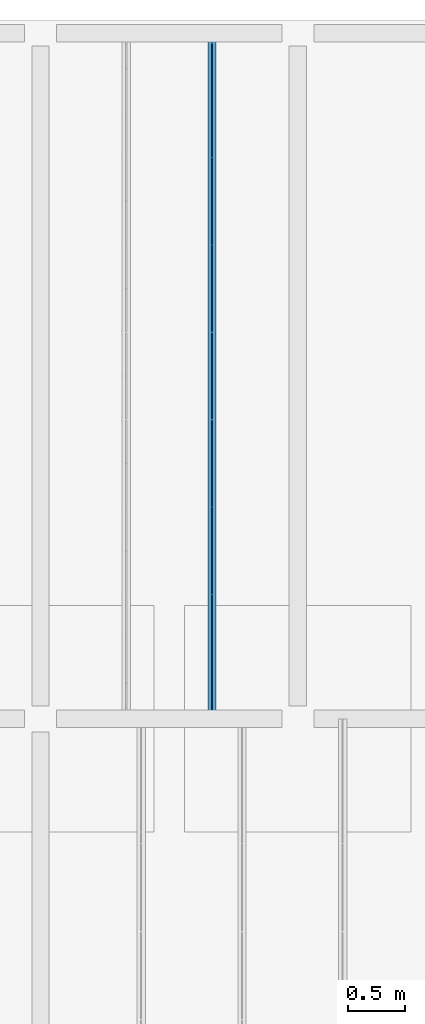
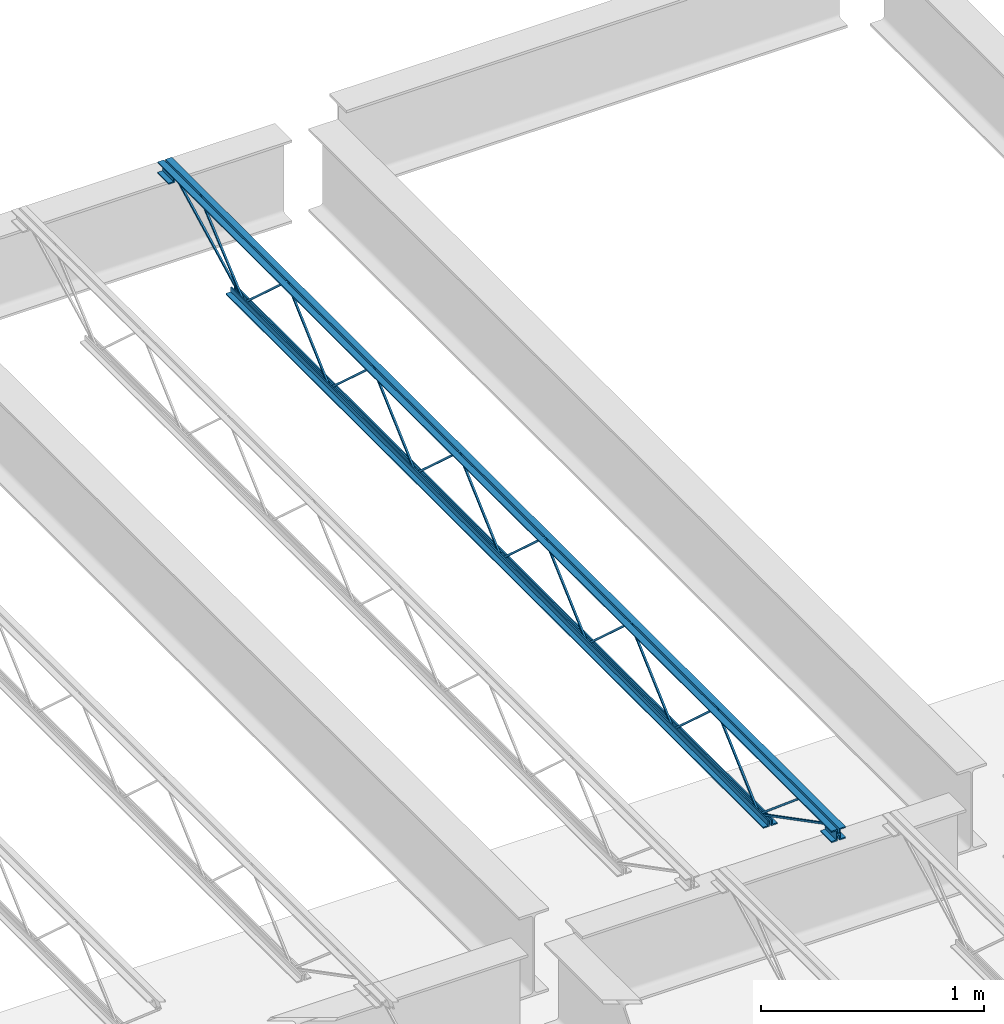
# One storey, part 47 of 75: 1 beam.
"""IFC2X3 building model written with IfcOpenShell, lengths in metres."""

from ifc_helpers import new_model, entity, si_unit, converted_unit, frame, origin, place, context, project, spatial, face_set, surface_model, element, save


model = new_model("IFC2X3")

# Units and contexts
model_context = context("Model", 3, precision=1e-09, world=origin())
plan_context = context("Plan", 3, precision=1e-09, world=origin())
ifc_project = project(units=[si_unit("LENGTHUNIT", "METRE"), si_unit("AREAUNIT", "SQUARE_METRE"), si_unit("VOLUMEUNIT", "CUBIC_METRE"), converted_unit("PLANEANGLEUNIT", "DEGREE", entity("IfcRatioMeasure", 0.01745329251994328), si_unit("PLANEANGLEUNIT", "RADIAN"), dimensions=[0, 0, 0, 0, 0, 0, 0]), si_unit("TIMEUNIT", "SECOND")], contexts=[model_context, plan_context])

# Site, building, storey
site_placement = place(None, origin())
site = spatial("IfcSite", under=ifc_project, at=site_placement, Name="Default", CompositionType="ELEMENT")
building_placement = place(site_placement, origin())
building = spatial("IfcBuilding", under=site, at=building_placement, CompositionType="ELEMENT")
storey_placement = place(building_placement, origin())
storey = spatial("IfcBuildingStorey", under=building, at=storey_placement, Name="First Floor", CompositionType="ELEMENT", Elevation=-3.531500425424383e-13)

# Beam
beam_placement = place(storey_placement, frame((-39.18341666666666, 50.09000000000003, 4.112000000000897)))
element("IfcBeam", 1, at=beam_placement, inside=storey, Name="M_K-Series Bar Joist-Rod Web:14K1:14K1", ObjectType="M_K-Series Bar Joist-Rod Web:14K1", context=model_context, shape_type="SurfaceModel", body=[
    surface_model("IfcFaceBasedSurfaceModel", [(0.0415000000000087, 3.795999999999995, 0.01110000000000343), (0.03200000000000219, 3.795999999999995, 0.01110000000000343), (0.03200000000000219, 3.795999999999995, 0.001600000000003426), (0.0415000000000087, 3.795999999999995, 0.001600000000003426), (0.03200000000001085, 3.797344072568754, 0.01110000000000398), (0.0415000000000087, 3.797344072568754, 0.01110000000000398), (0.03200000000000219, 3.80100592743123, 0.001600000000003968), (0.03200000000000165, 4.180155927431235, 0.3449000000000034), (0.03200000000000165, 4.182844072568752, 0.3449000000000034), (0.0320000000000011, 4.561994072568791, 0.001600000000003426), (0.03200000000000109, 4.566999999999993, 0.001600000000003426), (0.03200000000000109, 4.566999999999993, 0.01110000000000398), (0.03200000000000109, 4.565655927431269, 0.01110000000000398), (0.03200000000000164, 4.186505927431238, 0.3544000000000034), (0.03200000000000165, 4.176494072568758, 0.3544000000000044), (0.04150000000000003, 3.80100592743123, 0.001600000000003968), (0.04150000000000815, 4.180155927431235, 0.3449000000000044), (0.04150000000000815, 4.182844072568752, 0.3449000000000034), (0.04150000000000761, 4.561994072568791, 0.001600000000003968), (0.04150000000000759, 4.566999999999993, 0.001600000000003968), (0.04150000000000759, 4.566999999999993, 0.01110000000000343), (0.04150000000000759, 4.565655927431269, 0.01110000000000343), (0.04150000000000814, 4.186505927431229, 0.3544000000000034), (0.04150000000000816, 4.176494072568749, 0.3544000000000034), (0.04150000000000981, 3.024999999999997, 0.01110000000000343), (0.0320000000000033, 3.024999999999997, 0.01110000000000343), (0.0320000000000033, 3.024999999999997, 0.001600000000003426), (0.04150000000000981, 3.024999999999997, 0.001600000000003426), (0.03200000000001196, 3.026344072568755, 0.01110000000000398), (0.04150000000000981, 3.026344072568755, 0.01110000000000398), (0.03200000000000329, 3.030005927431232, 0.001600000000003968), (0.03200000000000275, 3.409155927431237, 0.3449000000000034), (0.03200000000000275, 3.411844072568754, 0.3449000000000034), (0.03200000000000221, 3.790994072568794, 0.001600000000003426), (0.03200000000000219, 3.795999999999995, 0.01110000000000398), (0.03200000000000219, 3.794655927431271, 0.01110000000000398), (0.03200000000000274, 3.41550592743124, 0.3544000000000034), (0.03200000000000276, 3.40549407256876, 0.3544000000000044), (0.04150000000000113, 3.030005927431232, 0.001600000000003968), (0.04150000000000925, 3.409155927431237, 0.3449000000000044), (0.04150000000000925, 3.411844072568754, 0.3449000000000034), (0.0415000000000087, 3.790994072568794, 0.001600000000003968), (0.0415000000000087, 3.795999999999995, 0.001600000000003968), (0.0415000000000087, 3.794655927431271, 0.01110000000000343), (0.04150000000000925, 3.415505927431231, 0.3544000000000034), (0.04150000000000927, 3.40549407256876, 0.3544000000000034), (0.0415000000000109, 2.253999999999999, 0.01110000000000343), (0.03200000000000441, 2.253999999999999, 0.01110000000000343), (0.03200000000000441, 2.253999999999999, 0.001600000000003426), (0.0415000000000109, 2.253999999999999, 0.001600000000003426), (0.03200000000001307, 2.255344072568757, 0.01110000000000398), (0.0415000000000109, 2.255344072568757, 0.01110000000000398), (0.03200000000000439, 2.259005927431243, 0.001600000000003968), (0.03200000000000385, 2.638155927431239, 0.3449000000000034), (0.03200000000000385, 2.640844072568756, 0.3449000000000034), (0.03200000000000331, 3.019994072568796, 0.001600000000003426), (0.0320000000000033, 3.024999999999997, 0.01110000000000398), (0.0320000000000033, 3.023655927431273, 0.01110000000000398), (0.03200000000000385, 2.644505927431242, 0.3544000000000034), (0.03200000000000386, 2.634494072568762, 0.3544000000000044), (0.04150000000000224, 2.259005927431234, 0.001600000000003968), (0.04150000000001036, 2.638155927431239, 0.3449000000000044), (0.04150000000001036, 2.640844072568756, 0.3449000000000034), (0.04150000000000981, 3.019994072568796, 0.001600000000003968), (0.04150000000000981, 3.024999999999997, 0.001600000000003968), (0.04150000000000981, 3.023655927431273, 0.01110000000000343), (0.04150000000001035, 2.644505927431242, 0.3544000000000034), (0.04150000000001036, 2.634494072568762, 0.3544000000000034), (0.04150000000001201, 1.483000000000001, 0.01110000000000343), (0.03200000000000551, 1.483000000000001, 0.01110000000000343), (0.03200000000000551, 1.483000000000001, 0.001600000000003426), (0.04150000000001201, 1.483000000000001, 0.001600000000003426), (0.03200000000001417, 1.484344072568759, 0.01110000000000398), (0.04150000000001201, 1.484344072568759, 0.01110000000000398), (0.0320000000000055, 1.488005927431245, 0.001600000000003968), (0.03200000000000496, 1.867155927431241, 0.3449000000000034), (0.03200000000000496, 1.869844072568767, 0.3449000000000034), (0.03200000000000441, 2.248994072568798, 0.001600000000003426), (0.03200000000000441, 2.254000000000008, 0.001600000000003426), (0.03200000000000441, 2.253999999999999, 0.01110000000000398), (0.03200000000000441, 2.252655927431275, 0.01110000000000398), (0.03200000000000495, 1.873505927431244, 0.3544000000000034), (0.03200000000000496, 1.863494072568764, 0.3544000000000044), (0.04150000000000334, 1.488005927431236, 0.001600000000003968), (0.04150000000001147, 1.867155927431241, 0.3449000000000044), (0.04150000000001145, 1.869844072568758, 0.3449000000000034), (0.04150000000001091, 2.248994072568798, 0.001600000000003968), (0.0415000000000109, 2.253999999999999, 0.001600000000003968), (0.0415000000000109, 2.254000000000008, 0.01110000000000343), (0.04150000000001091, 2.252655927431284, 0.01110000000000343), (0.04150000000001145, 1.873505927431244, 0.3544000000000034), (0.04150000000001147, 1.863494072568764, 0.3544000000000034), (0.04150000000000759, 4.566999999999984, 0.01109999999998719), (0.03200000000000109, 4.566999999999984, 0.01109999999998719), (0.03200000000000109, 4.566999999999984, 0.001599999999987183), (0.04150000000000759, 4.566999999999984, 0.001599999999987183), (0.03200000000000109, 4.568344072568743, 0.01109999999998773), (0.04149999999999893, 4.568344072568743, 0.01109999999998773), (0.03200000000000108, 4.572005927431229, 0.001599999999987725), (0.03200000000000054, 4.951155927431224, 0.3448999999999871), (0.03200000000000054, 4.95384407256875, 0.3448999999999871), (0.03199999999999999, 5.332994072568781, 0.001599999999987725), (0.03199999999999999, 5.33799999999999, 0.001599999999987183), (0.03199999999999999, 5.337999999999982, 0.01109999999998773), (0.03199999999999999, 5.336655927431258, 0.01109999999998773), (0.03200000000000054, 4.957505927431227, 0.3543999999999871), (0.03200000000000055, 4.947494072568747, 0.3543999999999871), (0.04149999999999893, 4.57200592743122, 0.001599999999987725), (0.04149999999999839, 4.951155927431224, 0.3448999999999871), (0.04149999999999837, 4.953844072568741, 0.3448999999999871), (0.04149999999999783, 5.332994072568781, 0.001599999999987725), (0.04149999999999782, 5.337999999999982, 0.001599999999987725), (0.04150000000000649, 5.33799999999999, 0.01109999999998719), (0.04149999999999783, 5.336655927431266, 0.01109999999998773), (0.04149999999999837, 4.957505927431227, 0.3543999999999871), (0.04149999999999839, 4.947494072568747, 0.3543999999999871), (0.04150000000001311, 0.7120000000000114, 0.01110000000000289), (0.03200000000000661, 0.7120000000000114, 0.01110000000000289), (0.03200000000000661, 0.7120000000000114, 0.001600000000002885), (0.04150000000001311, 0.7120000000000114, 0.001600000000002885), (0.03200000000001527, 0.71334407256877, 0.01110000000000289), (0.04150000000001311, 0.71334407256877, 0.01110000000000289), (0.03200000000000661, 0.717005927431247, 0.001600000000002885), (0.03200000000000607, 1.096155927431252, 0.3449000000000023), (0.03200000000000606, 1.098844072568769, 0.3449000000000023), (0.03200000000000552, 1.477994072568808, 0.001600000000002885), (0.03200000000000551, 1.483000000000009, 0.001600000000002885), (0.03200000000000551, 1.483000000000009, 0.01110000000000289), (0.03200000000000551, 1.481655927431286, 0.01110000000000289), (0.03200000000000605, 1.102505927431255, 0.3544000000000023), (0.03200000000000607, 1.092494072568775, 0.3544000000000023), (0.04150000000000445, 0.717005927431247, 0.001600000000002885), (0.04150000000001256, 1.096155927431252, 0.3449000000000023), (0.04150000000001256, 1.098844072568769, 0.3449000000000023), (0.04150000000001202, 1.477994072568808, 0.001600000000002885), (0.04150000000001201, 1.483000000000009, 0.001600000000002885), (0.04150000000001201, 1.483000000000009, 0.01110000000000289), (0.04150000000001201, 1.481655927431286, 0.01110000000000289), (0.04150000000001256, 1.102505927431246, 0.3544000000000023), (0.04150000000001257, 1.092494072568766, 0.3544000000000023), (0.03199999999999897, 6.050000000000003, 0.3559999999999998), (0.0, 6.050000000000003, 0.3559999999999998), (0.0, 6.050000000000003, 0.349499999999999), (0.02550000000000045, 6.050000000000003, 0.349499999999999), (0.02550000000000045, 6.050000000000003, 0.3239999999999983), (0.03199999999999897, 6.050000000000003, 0.3239999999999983), (0.04149999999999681, 6.050000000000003, 0.3559999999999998), (0.04149999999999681, 6.050000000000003, 0.3239999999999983), (0.04799999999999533, 6.050000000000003, 0.3239999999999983), (0.04799999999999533, 6.050000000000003, 0.349499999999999), (0.07349999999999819, 6.050000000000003, 0.349499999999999), (0.07349999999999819, 6.050000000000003, 0.3559999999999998), (0.03200000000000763, 0.0, 0.3559999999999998), (0.0, 0.0, 0.3559999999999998), (0.0, 0.0, 0.349499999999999), (0.02550000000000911, 0.0, 0.349499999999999), (0.02550000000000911, 0.0, 0.3239999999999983), (0.03200000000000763, 0.0, 0.3239999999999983), (0.04150000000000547, 0.0, 0.3559999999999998), (0.04150000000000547, 0.0, 0.3239999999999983), (0.048000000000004, 0.0, 0.3239999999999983), (0.048000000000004, 0.0, 0.349499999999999), (0.07350000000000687, 0.0, 0.349499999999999), (0.07350000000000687, 0.0, 0.3559999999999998), (0.04150000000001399, 0.0999999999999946, 0.2924999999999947), (0.07350000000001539, 0.0999999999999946, 0.2924999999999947), (0.07350000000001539, 0.0999999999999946, 0.2989999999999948), (0.04800000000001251, 0.0999999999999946, 0.2989999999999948), (0.04800000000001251, 0.0999999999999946, 0.3239999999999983), (0.04150000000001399, 0.0999999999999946, 0.3239999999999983), (0.0, 0.0999999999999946, 0.2924999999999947), (0.03200000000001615, 0.0999999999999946, 0.2924999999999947), (0.03200000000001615, 0.0999999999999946, 0.3239999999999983), (0.02550000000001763, 0.0999999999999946, 0.3239999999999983), (0.02550000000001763, 0.0999999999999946, 0.2989999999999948), (0.0, 0.0999999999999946, 0.2989999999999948), (0.04150000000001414, 0.0, 0.2924999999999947), (0.07350000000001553, 0.0, 0.2924999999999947), (0.07350000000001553, 0.0, 0.2989999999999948), (0.04800000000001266, 0.0, 0.2989999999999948), (0.04800000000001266, 0.0, 0.3239999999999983), (0.04150000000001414, 0.0, 0.3239999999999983), (0.0, 0.0, 0.2924999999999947), (0.03200000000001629, 0.0, 0.2924999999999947), (0.03200000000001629, 0.0, 0.3239999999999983), (0.02550000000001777, 0.0, 0.3239999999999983), (0.02550000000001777, 0.0, 0.2989999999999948), (0.0, 0.0, 0.2989999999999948), (0.03200000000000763, 6.050000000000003, 0.2924999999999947), (0.03200000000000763, 6.050000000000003, 0.3239999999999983), (0.02550000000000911, 6.050000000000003, 0.3239999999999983), (0.02550000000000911, 6.050000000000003, 0.2989999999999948), (0.0, 6.050000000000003, 0.2989999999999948), (0.0, 6.050000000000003, 0.2924999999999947), (0.04150000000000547, 6.050000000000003, 0.2924999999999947), (0.07350000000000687, 6.050000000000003, 0.2924999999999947), (0.07350000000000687, 6.050000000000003, 0.2989999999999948), (0.048000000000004, 6.050000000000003, 0.2989999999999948), (0.048000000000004, 6.050000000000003, 0.3239999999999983), (0.04150000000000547, 6.050000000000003, 0.3239999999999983), (0.03200000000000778, 5.950000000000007, 0.2924999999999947), (0.03200000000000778, 5.950000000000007, 0.3239999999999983), (0.02550000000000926, 5.950000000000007, 0.3239999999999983), (0.02550000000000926, 5.950000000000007, 0.2989999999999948), (0.0, 5.950000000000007, 0.2989999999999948), (0.0, 5.950000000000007, 0.2924999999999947), (0.04150000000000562, 5.950000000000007, 0.2924999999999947), (0.073500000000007, 5.950000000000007, 0.2924999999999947), (0.073500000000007, 5.950000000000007, 0.2989999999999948), (0.04800000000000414, 5.950000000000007, 0.2989999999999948), (0.04800000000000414, 5.950000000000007, 0.3239999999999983), (0.04150000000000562, 5.950000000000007, 0.3239999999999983), (0.03199999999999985, 5.438000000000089, 0.0), (0.03199999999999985, 5.438000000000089, 0.03199999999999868), (0.02550000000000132, 5.438000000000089, 0.03199999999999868), (0.02550000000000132, 5.438000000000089, 0.006499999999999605), (0.0, 5.438000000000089, 0.006499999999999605), (0.0, 5.438000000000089, 0.0), (0.04149999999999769, 5.438000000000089, 0.0), (0.07349999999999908, 5.438000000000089, 0.0), (0.07349999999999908, 5.438000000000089, 0.006499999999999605), (0.04799999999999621, 5.438000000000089, 0.006499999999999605), (0.04799999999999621, 5.438000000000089, 0.03199999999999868), (0.04149999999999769, 5.438000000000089, 0.03199999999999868), (0.03200000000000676, 0.6120000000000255, 0.0), (0.03200000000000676, 0.6120000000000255, 0.03199999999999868), (0.02550000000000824, 0.6120000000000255, 0.03199999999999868), (0.02550000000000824, 0.6120000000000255, 0.006499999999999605), (0.0, 0.6120000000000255, 0.006499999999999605), (0.0, 0.6120000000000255, 0.0), (0.0415000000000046, 0.6120000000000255, 0.0), (0.07350000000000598, 0.6120000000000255, 0.0), (0.07350000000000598, 0.6120000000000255, 0.006499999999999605), (0.04800000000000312, 0.6120000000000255, 0.006499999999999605), (0.04800000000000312, 0.6120000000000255, 0.03199999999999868), (0.0415000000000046, 0.6120000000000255, 0.03199999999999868), (0.04150000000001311, 0.7141882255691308, 0.01056594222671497), (0.03200000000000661, 0.7141882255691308, 0.01056594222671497), (0.03200000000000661, 0.709811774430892, 0.002134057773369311), (0.04150000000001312, 0.709811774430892, 0.002134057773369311), (0.04150000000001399, 0.1011592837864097, 0.3287499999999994), (0.04150000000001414, 0.0, 0.3287499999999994), (0.04150000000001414, 0.0, 0.3192499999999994), (0.04150000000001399, 0.09884071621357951, 0.3192499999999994), (0.03200000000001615, 0.09884071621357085, 0.3192499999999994), (0.03200000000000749, 0.1011592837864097, 0.3287499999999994), (0.03200000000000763, 0.0, 0.3287499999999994), (0.03200000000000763, 0.0, 0.3192499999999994), (0.04150000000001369, 0.3065428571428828, 0.341700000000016), (0.03200000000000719, 0.3065428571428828, 0.341700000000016), (0.03200000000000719, 0.3065428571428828, 0.332200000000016), (0.04150000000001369, 0.3065428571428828, 0.332200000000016), (0.03200000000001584, 0.3209758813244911, 0.341700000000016), (0.04150000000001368, 0.3209758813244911, 0.341700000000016), (0.03200000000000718, 0.3175098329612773, 0.332200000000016), (0.03200000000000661, 0.7089411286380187, 0.002716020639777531), (0.03200000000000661, 0.7150588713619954, 0.009983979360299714), (0.04150000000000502, 0.3175098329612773, 0.332200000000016), (0.04150000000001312, 0.7089411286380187, 0.002716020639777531), (0.04150000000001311, 0.7150588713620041, 0.009983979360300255), (0.04150000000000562, 5.952188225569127, 0.3197840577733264), (0.04150000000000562, 5.947811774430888, 0.3282159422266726), (0.03199999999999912, 5.947811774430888, 0.3282159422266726), (0.03199999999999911, 5.952188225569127, 0.3197840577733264), (0.04150000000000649, 5.340188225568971, 0.002134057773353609), (0.0415000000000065, 5.335811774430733, 0.01056594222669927), (0.03199999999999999, 5.335811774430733, 0.01056594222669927), (0.03199999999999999, 5.340188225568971, 0.002134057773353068), (0.04150000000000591, 5.741107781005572, 0.3460454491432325), (0.04150000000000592, 5.73492079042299, 0.3532545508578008), (0.03199999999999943, 5.73492079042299, 0.3532545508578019), (0.03199999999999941, 5.741107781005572, 0.3460454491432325), (0.04150000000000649, 5.341093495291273, 0.002745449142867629), (0.0415000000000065, 5.334906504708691, 0.009954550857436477), (0.03199999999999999, 5.334906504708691, 0.009954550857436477), (0.03199999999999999, 5.341093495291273, 0.002745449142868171)], [face_set([[[0, 1, 2, 3]], [[1, 4, 5, 0]], [[2, 6, 7, 8, 9, 10, 11, 12, 13, 14, 4, 1]], [[3, 2, 6, 15]], [[0, 3, 15, 16, 17, 18, 19, 20, 21, 22, 23, 5]], [[4, 5, 23, 14]], [[15, 16, 7, 6]], [[14, 13, 22, 23]], [[16, 7, 8, 17]], [[13, 12, 21, 22]], [[17, 8, 9, 18]], [[20, 11, 10, 19]], [[12, 11, 20, 21]], [[18, 9, 10, 19]]]), face_set([[[24, 25, 26, 27]], [[25, 28, 29, 24]], [[26, 30, 31, 32, 33, 2, 34, 35, 36, 37, 28, 25]], [[27, 26, 30, 38]], [[24, 27, 38, 39, 40, 41, 42, 0, 43, 44, 45, 29]], [[28, 29, 45, 37]], [[38, 39, 31, 30]], [[37, 36, 44, 45]], [[39, 31, 32, 40]], [[36, 35, 43, 44]], [[40, 32, 33, 41]], [[0, 34, 2, 42]], [[35, 34, 0, 43]], [[41, 33, 2, 42]]]), face_set([[[46, 47, 48, 49]], [[47, 50, 51, 46]], [[48, 52, 53, 54, 55, 26, 56, 57, 58, 59, 50, 47]], [[49, 48, 52, 60]], [[46, 49, 60, 61, 62, 63, 64, 24, 65, 66, 67, 51]], [[50, 51, 67, 59]], [[60, 61, 53, 52]], [[59, 58, 66, 67]], [[61, 53, 54, 62]], [[58, 57, 65, 66]], [[62, 54, 55, 63]], [[24, 56, 26, 64]], [[57, 56, 24, 65]], [[63, 55, 26, 64]]]), face_set([[[68, 69, 70, 71]], [[69, 72, 73, 68]], [[70, 74, 75, 76, 77, 78, 79, 80, 81, 82, 72, 69]], [[71, 70, 74, 83]], [[68, 71, 83, 84, 85, 86, 87, 88, 89, 90, 91, 73]], [[72, 73, 91, 82]], [[83, 84, 75, 74]], [[82, 81, 90, 91]], [[84, 75, 76, 85]], [[81, 80, 89, 90]], [[85, 76, 77, 86]], [[88, 79, 78, 87]], [[80, 79, 88, 89]], [[86, 77, 78, 87]]]), face_set([[[92, 93, 94, 95]], [[93, 96, 97, 92]], [[94, 98, 99, 100, 101, 102, 103, 104, 105, 106, 96, 93]], [[95, 94, 98, 107]], [[92, 95, 107, 108, 109, 110, 111, 112, 113, 114, 115, 97]], [[96, 97, 115, 106]], [[107, 108, 99, 98]], [[106, 105, 114, 115]], [[108, 99, 100, 109]], [[105, 104, 113, 114]], [[109, 100, 101, 110]], [[112, 103, 102, 111]], [[104, 103, 112, 113]], [[110, 101, 102, 111]]]), face_set([[[116, 117, 118, 119]], [[117, 120, 121, 116]], [[118, 122, 123, 124, 125, 126, 127, 128, 129, 130, 120, 117]], [[119, 118, 122, 131]], [[116, 119, 131, 132, 133, 134, 135, 136, 137, 138, 139, 121]], [[120, 121, 139, 130]], [[131, 132, 123, 122]], [[130, 129, 138, 139]], [[132, 123, 124, 133]], [[129, 128, 137, 138]], [[133, 124, 125, 134]], [[136, 127, 126, 135]], [[128, 127, 136, 137]], [[134, 125, 126, 135]]]), face_set([[[140, 141, 142, 143, 144, 145]], [[146, 147, 148, 149, 150, 151]], [[152, 153, 154, 155, 156, 157]], [[158, 159, 160, 161, 162, 163]], [[145, 140, 152, 157]], [[144, 145, 157, 156]], [[143, 155, 156, 144]], [[142, 143, 155, 154]], [[141, 153, 154, 142]], [[140, 152, 153, 141]], [[151, 163, 158, 146]], [[150, 151, 163, 162]], [[149, 150, 162, 161]], [[148, 149, 161, 160]], [[147, 148, 160, 159]], [[146, 158, 159, 147]]]), face_set([[[164, 165, 166, 167, 168, 169]], [[170, 171, 172, 173, 174, 175]], [[176, 177, 178, 179, 180, 181]], [[182, 183, 184, 185, 186, 187]], [[169, 181, 176, 164]], [[168, 180, 181, 169]], [[167, 168, 180, 179]], [[166, 178, 179, 167]], [[165, 166, 178, 177]], [[164, 165, 177, 176]], [[175, 187, 182, 170]], [[174, 186, 187, 175]], [[173, 185, 186, 174]], [[172, 184, 185, 173]], [[171, 172, 184, 183]], [[170, 171, 183, 182]]]), face_set([[[188, 189, 190, 191, 192, 193]], [[194, 195, 196, 197, 198, 199]], [[200, 201, 202, 203, 204, 205]], [[206, 207, 208, 209, 210, 211]], [[193, 188, 200, 205]], [[192, 204, 205, 193]], [[191, 203, 204, 192]], [[190, 202, 203, 191]], [[189, 201, 202, 190]], [[188, 189, 201, 200]], [[199, 211, 206, 194]], [[198, 210, 211, 199]], [[197, 198, 210, 209]], [[196, 208, 209, 197]], [[195, 196, 208, 207]], [[194, 195, 207, 206]]]), face_set([[[212, 213, 214, 215, 216, 217]], [[218, 219, 220, 221, 222, 223]], [[224, 225, 226, 227, 228, 229]], [[230, 231, 232, 233, 234, 235]], [[217, 212, 224, 229]], [[216, 228, 229, 217]], [[215, 227, 228, 216]], [[214, 226, 227, 215]], [[213, 225, 226, 214]], [[212, 213, 225, 224]], [[223, 235, 230, 218]], [[222, 234, 235, 223]], [[221, 222, 234, 233]], [[220, 232, 233, 221]], [[219, 220, 232, 231]], [[218, 219, 231, 230]]]), face_set([[[236, 237, 238, 239]], [[239, 236, 240, 241, 242, 243]], [[238, 239, 243, 244]], [[237, 245, 246, 247, 244, 238]], [[236, 240, 245, 237]], [[241, 246, 247, 242]], [[244, 243, 242, 247]], [[240, 241, 246, 245]]]), face_set([[[248, 249, 250, 251]], [[249, 252, 253, 248]], [[250, 254, 255, 256, 252, 249]], [[251, 250, 254, 257]], [[248, 251, 257, 258, 259, 253]], [[259, 256, 255, 258]], [[252, 256, 259, 253]], [[257, 254, 255, 258]]]), face_set([[[260, 261, 262, 263]], [[264, 265, 266, 267]], [[263, 267, 264, 260]], [[262, 266, 267, 263]], [[261, 262, 266, 265]], [[260, 261, 265, 264]]]), face_set([[[268, 269, 270, 271]], [[272, 273, 274, 275]], [[271, 275, 272, 268]], [[270, 274, 275, 271]], [[269, 270, 274, 273]], [[268, 269, 273, 272]]])]),
])

save(model, "model.ifc")
